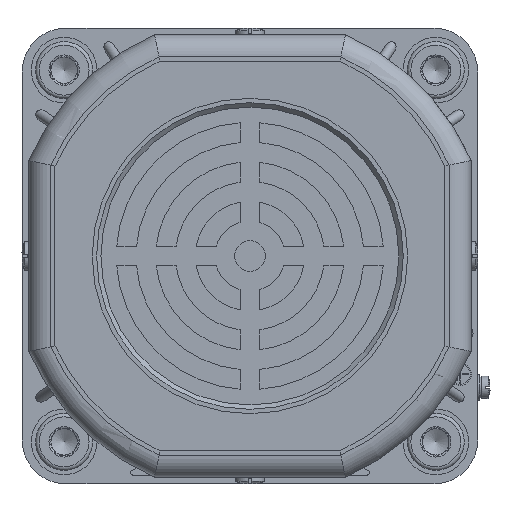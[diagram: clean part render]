
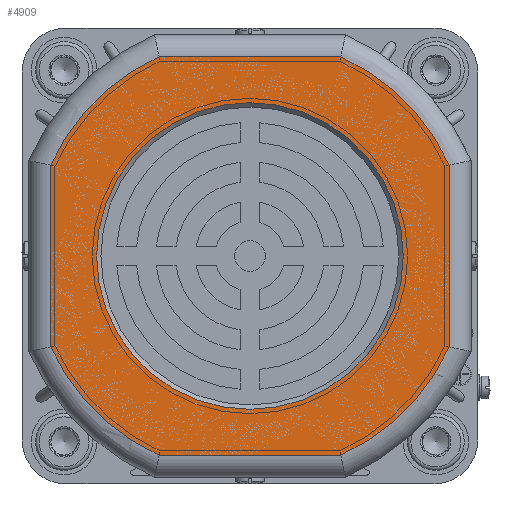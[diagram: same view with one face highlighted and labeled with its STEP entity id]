
A CAD part, left-side view. The second image highlights one B-rep face of the part: STEP entity #4909.
In plain terms, the highlighted planar face has unit normal (-1, 0, 0).
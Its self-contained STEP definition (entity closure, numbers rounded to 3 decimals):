
#3343=FACE_BOUND('',#9117,.T.);
#3344=FACE_BOUND('',#9118,.T.);
#4909=ADVANCED_FACE('',(#3343,#3344),#6044,.F.);
#6044=PLANE('',#33807);
#9117=EDGE_LOOP('',(#16739,#16740,#16741,#16742,#16743,#16744,#16745,#16746));
#9118=EDGE_LOOP('',(#16747));
#16739=ORIENTED_EDGE('',*,*,#25338,.T.);
#16740=ORIENTED_EDGE('',*,*,#25319,.T.);
#16741=ORIENTED_EDGE('',*,*,#25324,.T.);
#16742=ORIENTED_EDGE('',*,*,#25328,.T.);
#16743=ORIENTED_EDGE('',*,*,#25332,.T.);
#16744=ORIENTED_EDGE('',*,*,#25336,.T.);
#16745=ORIENTED_EDGE('',*,*,#25341,.T.);
#16746=ORIENTED_EDGE('',*,*,#25342,.T.);
#16747=ORIENTED_EDGE('',*,*,#25490,.T.);
#21562=VERTEX_POINT('',#52914);
#21563=VERTEX_POINT('',#52916);
#21565=VERTEX_POINT('',#52934);
#21567=VERTEX_POINT('',#52947);
#21569=VERTEX_POINT('',#52960);
#21571=VERTEX_POINT('',#52973);
#21572=VERTEX_POINT('',#52982);
#21573=VERTEX_POINT('',#52993);
#21673=VERTEX_POINT('',#53295);
#25319=EDGE_CURVE('',#21563,#21562,#31301,.T.);
#25324=EDGE_CURVE('',#21562,#21565,#27802,.T.);
#25328=EDGE_CURVE('',#21565,#21567,#31303,.T.);
#25332=EDGE_CURVE('',#21567,#21569,#27806,.T.);
#25336=EDGE_CURVE('',#21569,#21571,#31305,.T.);
#25338=EDGE_CURVE('',#21572,#21563,#27809,.T.);
#25341=EDGE_CURVE('',#21571,#21573,#27810,.T.);
#25342=EDGE_CURVE('',#21573,#21572,#31307,.T.);
#25490=EDGE_CURVE('',#21673,#21673,#31359,.T.);
#27802=LINE('',#52935,#29314);
#27806=LINE('',#52961,#29318);
#27809=LINE('',#52983,#29321);
#27810=LINE('',#52994,#29322);
#29314=VECTOR('',#39181,1.);
#29318=VECTOR('',#39197,1.);
#29321=VECTOR('',#39208,1.);
#29322=VECTOR('',#39215,1.);
#31301=CIRCLE('',#33671,50.);
#31303=CIRCLE('',#33677,50.);
#31305=CIRCLE('',#33683,50.);
#31307=CIRCLE('',#33689,50.);
#31359=CIRCLE('',#33792,35.);
#33671=AXIS2_PLACEMENT_3D('',#52915,#39172,#39173);
#33677=AXIS2_PLACEMENT_3D('',#52948,#39188,#39189);
#33683=AXIS2_PLACEMENT_3D('',#52974,#39204,#39205);
#33689=AXIS2_PLACEMENT_3D('',#52996,#39218,#39219);
#33792=AXIS2_PLACEMENT_3D('',#53294,#39520,#39521);
#33807=AXIS2_PLACEMENT_3D('',#53310,#39550,#39551);
#39172=DIRECTION('',(-1.,0.,0.));
#39173=DIRECTION('',(0.,0.,1.));
#39181=DIRECTION('',(0.,0.,1.));
#39188=DIRECTION('',(-1.,0.,0.));
#39189=DIRECTION('',(0.,0.,1.));
#39197=DIRECTION('',(0.,1.,0.));
#39204=DIRECTION('',(-1.,0.,0.));
#39205=DIRECTION('',(0.,0.,1.));
#39208=DIRECTION('',(0.,-1.,0.));
#39215=DIRECTION('',(0.,0.,-1.));
#39218=DIRECTION('',(-1.,0.,0.));
#39219=DIRECTION('',(0.,0.,1.));
#39520=DIRECTION('',(1.,0.,0.));
#39521=DIRECTION('',(0.,-1.,0.));
#39550=DIRECTION('',(1.,0.,0.));
#39551=DIRECTION('',(0.,0.,1.));
#52914=CARTESIAN_POINT('',(-266.374,-47.339,-20.73));
#52915=CARTESIAN_POINT('',(-266.374,-1.839,0.));
#52916=CARTESIAN_POINT('',(-266.374,-22.569,-45.5));
#52934=CARTESIAN_POINT('',(-266.374,-47.339,20.73));
#52935=CARTESIAN_POINT('',(-266.374,-47.339,21.789));
#52947=CARTESIAN_POINT('',(-266.374,-22.569,45.5));
#52948=CARTESIAN_POINT('',(-266.374,-1.839,0.));
#52960=CARTESIAN_POINT('',(-266.374,18.891,45.5));
#52961=CARTESIAN_POINT('',(-266.374,19.95,45.5));
#52973=CARTESIAN_POINT('',(-266.374,43.661,20.73));
#52974=CARTESIAN_POINT('',(-266.374,-1.839,0.));
#52982=CARTESIAN_POINT('',(-266.374,18.891,-45.5));
#52983=CARTESIAN_POINT('',(-266.374,-23.628,-45.5));
#52993=CARTESIAN_POINT('',(-266.374,43.661,-20.73));
#52994=CARTESIAN_POINT('',(-266.374,43.661,-21.789));
#52996=CARTESIAN_POINT('',(-266.374,-1.839,0.));
#53294=CARTESIAN_POINT('',(-266.374,-1.839,0.));
#53295=CARTESIAN_POINT('',(-266.374,-36.839,0.));
#53310=CARTESIAN_POINT('',(-266.374,-1.839,0.));
